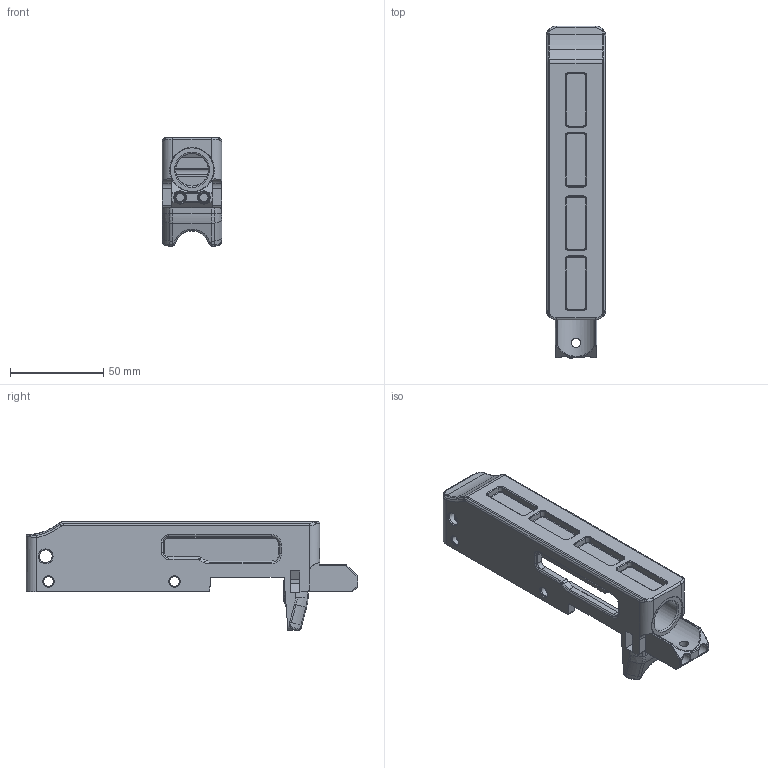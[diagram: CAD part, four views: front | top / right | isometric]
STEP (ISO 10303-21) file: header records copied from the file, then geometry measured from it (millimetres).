
FILE_DESCRIPTION(/* description */ (''),/* implementation_level */ '2;1');
FILE_NAME(/* name */ 'C:/Users/FFFTech/3D Objects/The Bad Stuff/Firearms Related/Firearms Parts/10-22 Parts/Receivers/L-X22 Receivers/STEP Files/Model O/L-X22 Model O-R.step',/* time_stamp */ '2021-08-08T16:49:20-04:00',/* author */ (''),/* organization */ (''),/* preprocessor_version */ 'ST-DEVELOPER v18.1',/* originating_system */ 'Autodesk Translation Framework v10.9.0.1377',/* authorisation */ '');
FILE_SCHEMA (('AUTOMOTIVE_DESIGN { 1 0 10303 214 3 1 1 }'));
Length unit declared in the file: millimetre
Products named in the file (1): LX22 Model O-R Receiver
Bounding box: 31.95 x 177.8 x 58.3 mm (x, y, z)
Volume: 80115.3 mm3; surface area: 37115.6 mm2
Topology: 1 solids, 1 shells, 495 faces, 1251 edges, 752 vertices
Faces by surface type: cylinder 148, plane 136, bspline 109, torus 62, cone 38, sphere 2
Full cylindrical faces by diameter (mm): 1.6 x1, 4.648 x4, 5 x1, 5.175 x4, 6.426 x2, 6.95 x1, 15.6 x1, 17.45 x1, 23.393 x1
Entity records: 17807 total; most frequent: CARTESIAN_POINT 6305, ORIENTED_EDGE 2482, DIRECTION 2307, EDGE_CURVE 1241, AXIS2_PLACEMENT_3D 893, VERTEX_POINT 752, EDGE_LOOP 525, LINE 521
